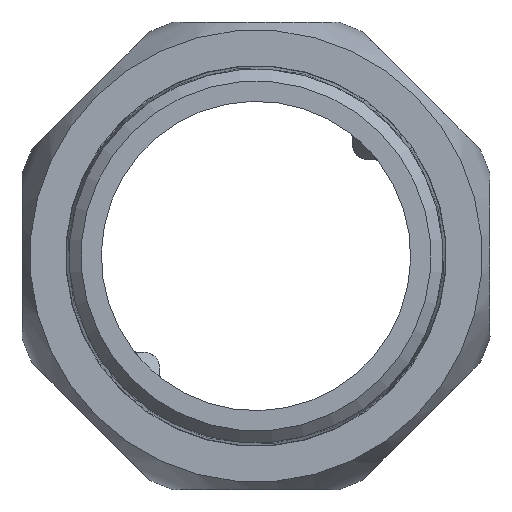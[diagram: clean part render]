
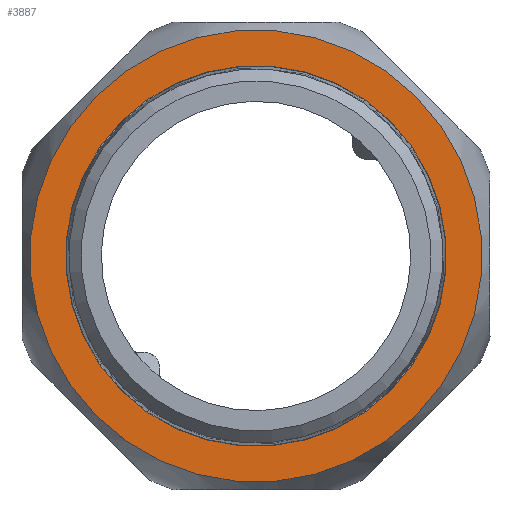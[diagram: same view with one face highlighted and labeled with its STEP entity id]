
A CAD part, left-side view. The second image highlights one B-rep face of the part: STEP entity #3887.
In plain terms, the highlighted planar face has unit normal (-1, 0, 0) as drawn and (1, 0, 0) by its records, which use the part's own axes.
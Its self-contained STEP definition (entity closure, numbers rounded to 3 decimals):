
#3853=CARTESIAN_POINT('',(22.0,28.5,0.0));
#3854=VERTEX_POINT('',#3853);
#3855=CARTESIAN_POINT('',(22.0,0.0,0.0));
#3856=DIRECTION('',(1.0,0.0,0.0));
#3857=DIRECTION('',(0.0,1.0,0.0));
#3858=AXIS2_PLACEMENT_3D('',#3855,#3856,#3857);
#3859=CIRCLE('',#3858,28.5);
#3860=EDGE_CURVE('',#3854,#3854,#3859,.T.);
#3868=CARTESIAN_POINT('',(22.0,26.25,0.0));
#3869=DIRECTION('',(1.0,0.0,0.0));
#3870=DIRECTION('',(0.0,0.0,-1.0));
#3871=AXIS2_PLACEMENT_3D('',#3868,#3869,#3870);
#3872=PLANE('',#3871);
#3873=ORIENTED_EDGE('',*,*,#3860,.T.);
#3874=EDGE_LOOP('',(#3873));
#3875=FACE_OUTER_BOUND('',#3874,.T.);
#3876=CARTESIAN_POINT('',(22.0,24.,0.0));
#3877=VERTEX_POINT('',#3876);
#3878=CARTESIAN_POINT('',(22.0,0.0,0.0));
#3879=DIRECTION('',(1.0,0.0,0.0));
#3880=DIRECTION('',(0.0,1.0,0.0));
#3881=AXIS2_PLACEMENT_3D('',#3878,#3879,#3880);
#3882=CIRCLE('',#3881,24.);
#3883=EDGE_CURVE('',#3877,#3877,#3882,.T.);
#3884=ORIENTED_EDGE('',*,*,#3883,.F.);
#3885=EDGE_LOOP('',(#3884));
#3886=FACE_BOUND('',#3885,.T.);
#3887=ADVANCED_FACE('',(#3875,#3886),#3872,.T.);
